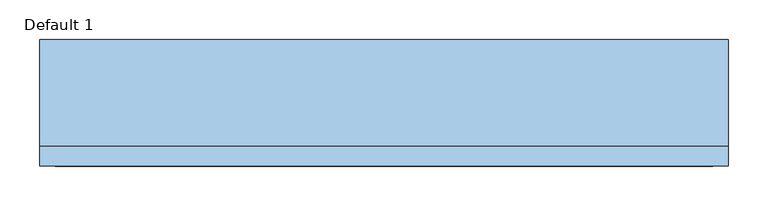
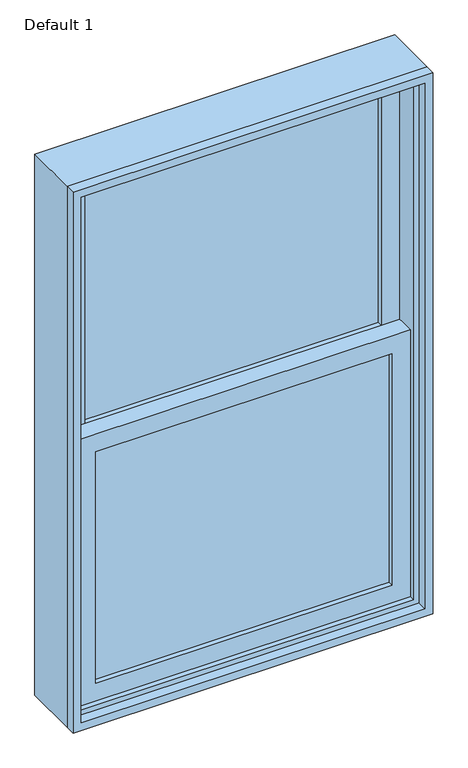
"""IFC4 building model written with IfcOpenShell, lengths in millimetres: window geometry, Planitar-Double-Hung-Single : Default 1."""

from ifc_helpers import new_model, si_unit, frame, origin, place, context, project, spatial, polyline, outline, extrude, source, transform, mapped, element, save


def default_1_c23df90b(model_context):
    return source(origin(), model_context, "Body", "SweptSolid", [
        extrude(outline(polyline([(355.6, 0.0), (355.6, -6.35), (-355.6, -6.35), (-355.6, 0.0), (355.6, 0.0)])), frame((0.0, 0.0, 990.6), z_axis=(0.0, 0.0, 1.0), x_axis=(1.0, 0.0, 0.0)), (0.0, 0.0, 1.0), 587.375),
        extrude(outline(polyline([(-355.6, -12.7), (355.6, -12.7), (355.6, -19.05), (-355.6, -19.05), (-355.6, -12.7)])), frame((0.0, 0.0, 990.6), z_axis=(0.0, 0.0, 1.0), x_axis=(1.0, 0.0, 0.0)), (0.0, 0.0, 1.0), 587.375),
        extrude(outline(polyline([(355.6, 44.45), (355.6, 38.1), (-355.6, 38.1), (-355.6, 44.45), (355.6, 44.45)])), frame((0.0, 0.0, 1622.425), z_axis=(0.0, 0.0, 1.0), x_axis=(1.0, 0.0, 0.0)), (0.0, 0.0, 1.0), 587.375),
        extrude(outline(polyline([(-355.6, 31.75), (355.6, 31.75), (355.6, 25.4), (-355.6, 25.4), (-355.6, 31.75)])), frame((0.0, 0.0, 1622.425), z_axis=(0.0, 0.0, 1.0), x_axis=(1.0, 0.0, 0.0)), (0.0, 0.0, 1.0), 587.375),
        extrude(outline(polyline([(1622.425, -400.05), (946.15, -400.05), (946.15, 400.05), (1622.425, 400.05), (1622.425, -400.05)]), holes=[polyline([(1577.975, 355.6), (990.6, 355.6), (990.6, -355.6), (1577.975, -355.6), (1577.975, 355.6)])]), frame((0.0, -31.75, 0.0), z_axis=(0.0, 1.0, 0.0), x_axis=(0.0, 0.0, 1.0)), (0.0, 0.0, 1.0), 44.45),
        extrude(outline(polyline([(2254.25, -400.05), (1577.975, -400.05), (1577.975, 400.05), (2254.25, 400.05), (2254.25, -400.05)]), holes=[polyline([(2209.8, 355.6), (1622.425, 355.6), (1622.425, -355.6), (2209.8, -355.6), (2209.8, 355.6)])]), frame((0.0, 12.7, 0.0), z_axis=(0.0, 1.0, 0.0), x_axis=(0.0, 0.0, 1.0)), (0.0, 0.0, 1.0), 44.45),
        extrude(outline(polyline([(2286.0, -431.8), (914.4, -431.8), (914.4, 431.8), (2286.0, 431.8), (2286.0, -431.8)]), holes=[polyline([(2254.25, 400.05), (946.15, 400.05), (946.15, -400.05), (2254.25, -400.05), (2254.25, 400.05)])]), frame((0.0, -44.45, 0.0), z_axis=(0.0, 1.0, 0.0), x_axis=(0.0, 0.0, 1.0)), (0.0, 0.0, 1.0), 133.35),
        extrude(outline(polyline([(2286.0, 431.8), (2286.0, -431.8), (914.4, -431.8), (914.4, 431.8), (2286.0, 431.8)]), holes=[polyline([(2266.95, 412.75), (933.45, 412.75), (933.45, -412.75), (2266.95, -412.75), (2266.95, 412.75)])]), frame((0.0, -69.85, 0.0), z_axis=(0.0, 1.0, 0.0), x_axis=(0.0, 0.0, 1.0)), (0.0, 0.0, 1.0), 25.4),
    ])


if __name__ == "__main__":
    model = new_model("IFC4")
    model_context = context("Model", 3, world=origin())
    ifc_project = project(units=[si_unit("LENGTHUNIT", "METRE", prefix="MILLI")], contexts=[model_context])
    site = spatial("IfcSite", under=ifc_project)
    building = spatial("IfcBuilding", under=site)
    placement = place(None, origin())
    default_1_shape = default_1_c23df90b(model_context)
    element("IfcWindow", 1, ObjectType="Planitar-Double-Hung-Single : Default 1", at=placement, inside=building, context=model_context, shape_type="MappedRepresentation", body=[
        mapped(default_1_shape, transform((0.0, 0.0, 0.0), x_axis=(1.0, 0.0, 0.0), y_axis=(0.0, 1.0, 0.0), z_axis=(0.0, 0.0, 1.0))),
    ])
    save(model, "model.ifc")
